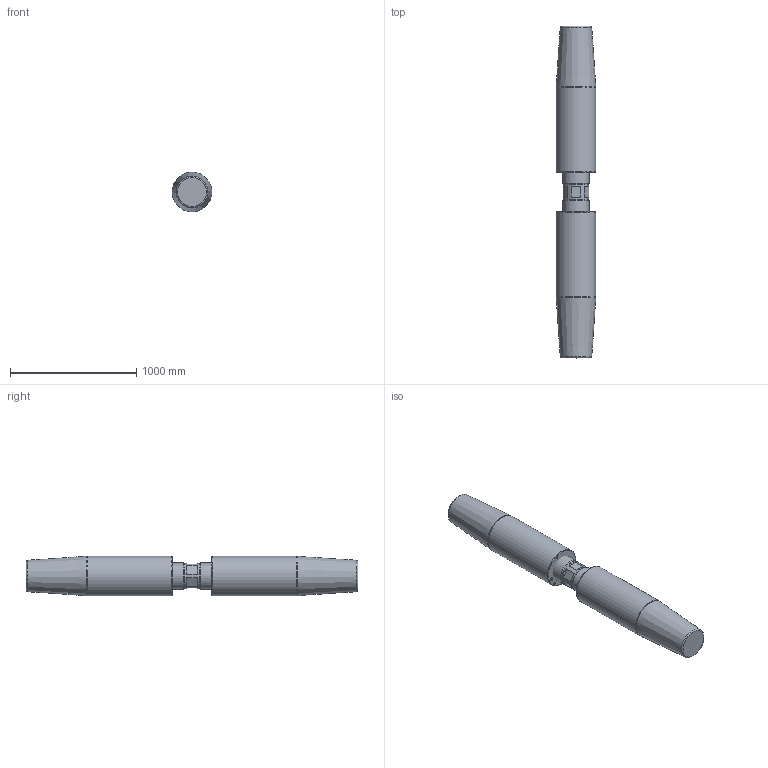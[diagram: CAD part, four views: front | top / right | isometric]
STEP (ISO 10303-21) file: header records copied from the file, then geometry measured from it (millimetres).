
FILE_DESCRIPTION(/* description */ (''),/* implementation_level */ '2;1');
FILE_NAME(/* name */ 'D:\Clienti\Redaelli (inventor)\CYA\STEP\Arrangement\CYA108 52 061 2.stp',/* time_stamp */ '2021-05-09T10:35:57+02:00',/* author */ ('fabri'),/* organization */ (''),/* preprocessor_version */ 'ST-DEVELOPER v16.13',/* originating_system */ 'Autodesk Inventor 2018',/* authorisation */ '');
FILE_SCHEMA (('AUTOMOTIVE_DESIGN { 1 0 10303 214 3 1 1 }'));
Length unit declared in the file: millimetre
Products named in the file (4): CYA012-54-062-0; TBF012-12-012-1; TBF012-13-012-0; TBF012-13-012-0_1
Assembly tree (3 placements, depth 2):
  CYA012-54-062-0
    TBF012-12-012-1
    TBF012-13-012-0
    TBF012-13-012-0_1
Bounding box: 314.8 x 2632 x 314.8 mm (x, y, z)
Volume: 204478837.5 mm3; surface area: 3273224.2 mm2
Topology: 3 solids, 3 shells, 499 faces, 1326 edges, 882 vertices
Faces by surface type: bspline 252, plane 204, cylinder 25, cone 14, torus 4
Full cylindrical faces by diameter (mm): 17.294 x8, 204 x1, 210 x2, 315 x2
Entity records: 17056 total; most frequent: CARTESIAN_POINT 6429, ORIENTED_EDGE 2574, DIRECTION 1309, EDGE_CURVE 1287, VERTEX_POINT 874, LINE 721, VECTOR 721, EDGE_LOOP 579
